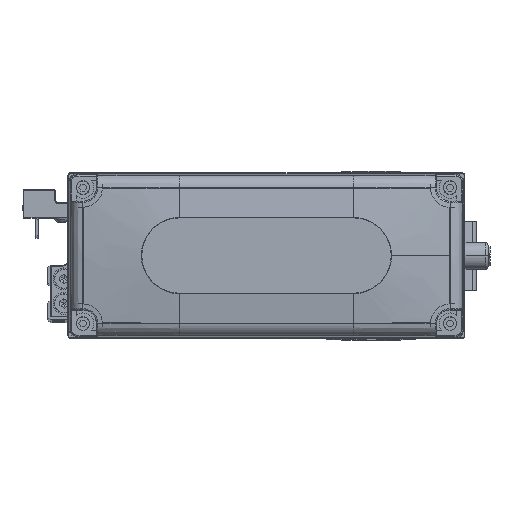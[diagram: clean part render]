
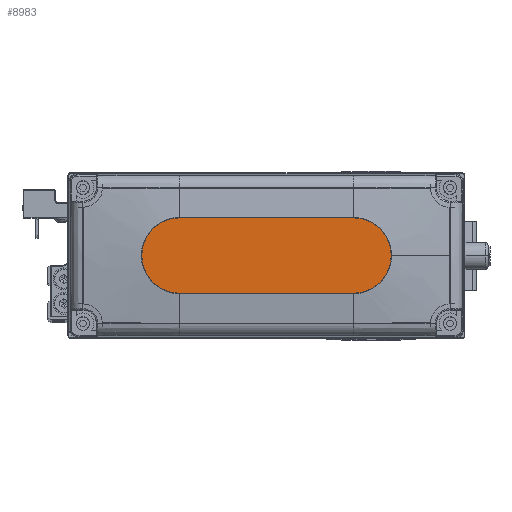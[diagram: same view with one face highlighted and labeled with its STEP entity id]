
A CAD part, top view. The second image highlights one B-rep face of the part: STEP entity #8983.
In plain terms, the highlighted planar face has unit normal (0, 0, 1).
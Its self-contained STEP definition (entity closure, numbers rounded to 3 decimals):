
#454 = CARTESIAN_POINT ( 'NONE',  ( -32., 14., 35. ) ) ;
#1573 = CARTESIAN_POINT ( 'NONE',  ( 46., 0., 35. ) ) ;
#3036 = VERTEX_POINT ( 'NONE', #33564 ) ;
#5431 = CARTESIAN_POINT ( 'NONE',  ( -32., -14., 35. ) ) ;
#8287 = DIRECTION ( 'NONE',  ( 0., 0., 1. ) ) ;
#8983 = ADVANCED_FACE ( 'NONE', ( #11777 ), #25922, .T. ) ;
#9323 = ORIENTED_EDGE ( 'NONE', *, *, #23249, .T. ) ;
#9437 = DIRECTION ( 'NONE',  ( 0., 0., 1. ) ) ;
#9771 = ORIENTED_EDGE ( 'NONE', *, *, #40420, .T. ) ;
#9784 = VERTEX_POINT ( 'NONE', #20197 ) ;
#10429 = EDGE_LOOP ( 'NONE', ( #9323, #9771, #28304, #18075, #15057 ) ) ;
#10728 = CARTESIAN_POINT ( 'NONE',  ( -32., 14., 35. ) ) ;
#11437 = CARTESIAN_POINT ( 'NONE',  ( 32., 0., 35. ) ) ;
#11777 = FACE_OUTER_BOUND ( 'NONE', #10429, .T. ) ;
#11931 = DIRECTION ( 'NONE',  ( 0., 0., 1. ) ) ;
#12955 = AXIS2_PLACEMENT_3D ( 'NONE', #40035, #8287, #22429 ) ;
#15057 = ORIENTED_EDGE ( 'NONE', *, *, #19262, .T. ) ;
#16581 = CIRCLE ( 'NONE', #22503, 14. ) ;
#16814 = AXIS2_PLACEMENT_3D ( 'NONE', #41172, #9437, #23581 ) ;
#17644 = EDGE_CURVE ( 'NONE', #9784, #20955, #42467, .T. ) ;
#18075 = ORIENTED_EDGE ( 'NONE', *, *, #17644, .T. ) ;
#19262 = EDGE_CURVE ( 'NONE', #20955, #35458, #16581, .T. ) ;
#19567 = DIRECTION ( 'NONE',  ( 1., 0., 0. ) ) ;
#20059 = VERTEX_POINT ( 'NONE', #454 ) ;
#20197 = CARTESIAN_POINT ( 'NONE',  ( 32., -14., 35. ) ) ;
#20955 = VERTEX_POINT ( 'NONE', #1573 ) ;
#22429 = DIRECTION ( 'NONE',  ( 1., 0., 0. ) ) ;
#22503 = AXIS2_PLACEMENT_3D ( 'NONE', #11437, #25599, #39716 ) ;
#22507 = AXIS2_PLACEMENT_3D ( 'NONE', #43669, #11931, #26082 ) ;
#23249 = EDGE_CURVE ( 'NONE', #35458, #20059, #42445, .T. ) ;
#23581 = DIRECTION ( 'NONE',  ( 1., 0., 0. ) ) ;
#24228 = VECTOR ( 'NONE', #19567, 1000. ) ;
#24878 = DIRECTION ( 'NONE',  ( -1., 0., 0. ) ) ;
#25599 = DIRECTION ( 'NONE',  ( 0., 0., 1. ) ) ;
#25922 = PLANE ( 'NONE',  #12955 ) ;
#26082 = DIRECTION ( 'NONE',  ( 1., 0., 0. ) ) ;
#28304 = ORIENTED_EDGE ( 'NONE', *, *, #42089, .T. ) ;
#32055 = VECTOR ( 'NONE', #24878, 1000. ) ;
#32861 = CARTESIAN_POINT ( 'NONE',  ( 32., 14., 35. ) ) ;
#33564 = CARTESIAN_POINT ( 'NONE',  ( -32., -14., 35. ) ) ;
#35458 = VERTEX_POINT ( 'NONE', #32861 ) ;
#36782 = CIRCLE ( 'NONE', #16814, 14. ) ;
#37172 = LINE ( 'NONE', #5431, #24228 ) ;
#39716 = DIRECTION ( 'NONE',  ( 1., 0., 0. ) ) ;
#40035 = CARTESIAN_POINT ( 'NONE',  ( 0., 0., 35. ) ) ;
#40420 = EDGE_CURVE ( 'NONE', #20059, #3036, #36782, .T. ) ;
#41172 = CARTESIAN_POINT ( 'NONE',  ( -32., 0., 35. ) ) ;
#42089 = EDGE_CURVE ( 'NONE', #3036, #9784, #37172, .T. ) ;
#42445 = LINE ( 'NONE', #10728, #32055 ) ;
#42467 = CIRCLE ( 'NONE', #22507, 14. ) ;
#43669 = CARTESIAN_POINT ( 'NONE',  ( 32., 0., 35. ) ) ;
